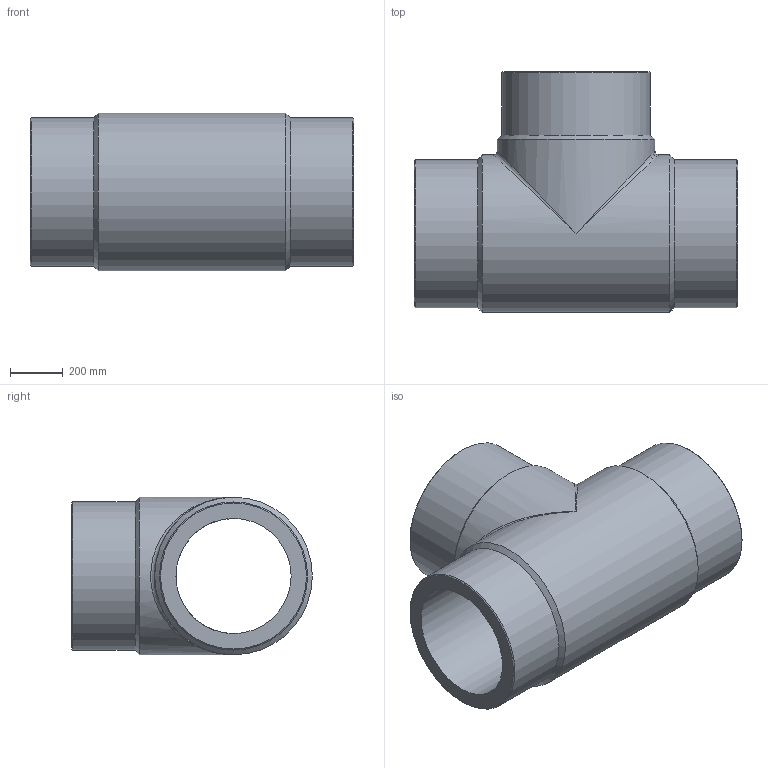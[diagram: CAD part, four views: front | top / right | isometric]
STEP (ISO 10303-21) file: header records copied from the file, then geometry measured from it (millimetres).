
FILE_DESCRIPTION(/* description */ ('Unknown'),/* implementation_level */ '2;1');
FILE_NAME(/* name */ 'TP560G',/* time_stamp */ '2022-06-06T17:05:54+02:00',/* author */ ('Unknown'),/* organization */ ('Unknown'),/* preprocessor_version */ 'ST-DEVELOPER v18.102',/* originating_system */ 'Solid Edge',/* authorisation */ 'Unknown');
FILE_SCHEMA (('AUTOMOTIVE_DESIGN {1 0 10303 214 3 1 1}'));
Length unit declared in the file: millimetre
Products named in the file (1): TP560G
Bounding box: 1222 x 910 x 596 mm (x, y, z)
Volume: 171207588.4 mm3; surface area: 5088017.9 mm2
Topology: 1 solids, 1 shells, 18 faces, 44 edges, 23 vertices
Faces by surface type: cylinder 7, cone 6, plane 3, bspline 2
Full cylindrical faces by diameter (mm): 435.4 x2, 560 x3, 596 x2
Entity records: 528 total; most frequent: CARTESIAN_POINT 171, DIRECTION 76, ORIENTED_EDGE 42, AXIS2_PLACEMENT_3D 38, EDGE_LOOP 36, FACE_BOUND 36, EDGE_CURVE 21, VERTEX_POINT 19
